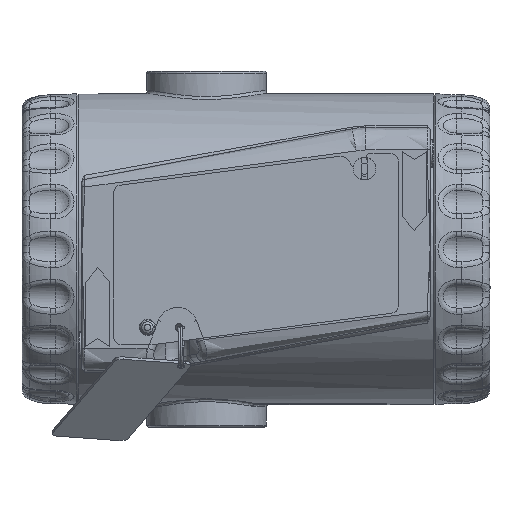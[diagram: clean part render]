
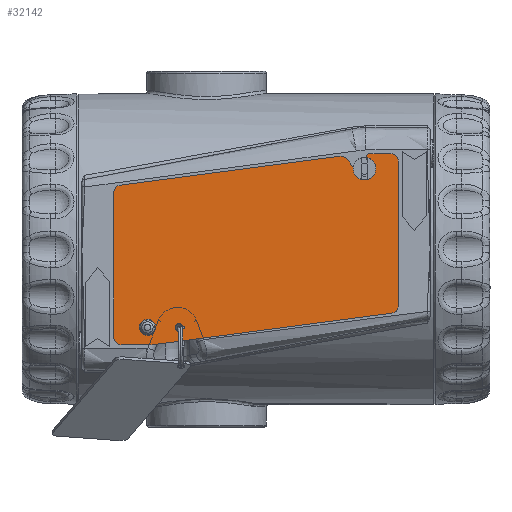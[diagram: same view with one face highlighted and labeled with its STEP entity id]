
A CAD part, left-side view. The second image highlights one B-rep face of the part: STEP entity #32142.
In plain terms, the highlighted planar face has unit normal (-1, 0, 0) as drawn and (0, 0, 1) by its records, which use the part's own axes.
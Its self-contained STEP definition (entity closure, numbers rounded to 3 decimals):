
#2493=FACE_BOUND('',#10486,.T.);
#2494=FACE_BOUND('',#10487,.T.);
#3020=PLANE('',#36271);
#4504=LINE('',#74977,#6029);
#4508=LINE('',#74989,#6033);
#4512=LINE('',#75001,#6037);
#4516=LINE('',#75013,#6041);
#4520=LINE('',#75025,#6045);
#4523=LINE('',#75031,#6048);
#4527=LINE('',#75043,#6052);
#4531=LINE('',#75054,#6056);
#6029=VECTOR('',#44955,10.);
#6033=VECTOR('',#44967,10.);
#6037=VECTOR('',#44979,10.);
#6041=VECTOR('',#44991,10.);
#6045=VECTOR('',#45003,10.);
#6048=VECTOR('',#45008,10.);
#6052=VECTOR('',#45020,10.);
#6056=VECTOR('',#45032,10.);
#8439=FACE_OUTER_BOUND('',#10485,.T.);
#10485=EDGE_LOOP('',(#29763,#29764,#29765,#29766,#29767,#29768,#29769,#29770,
#29771,#29772,#29773,#29774,#29775,#29776,#29777));
#10486=EDGE_LOOP('',(#29778));
#10487=EDGE_LOOP('',(#29779));
#12564=CIRCLE('',#36237,1.35);
#12566=CIRCLE('',#36240,1.);
#12567=CIRCLE('',#36242,2.);
#12569=CIRCLE('',#36246,2.);
#12571=CIRCLE('',#36250,1.);
#12573=CIRCLE('',#36254,2.);
#12575=CIRCLE('',#36258,2.);
#12577=CIRCLE('',#36263,2.);
#12579=CIRCLE('',#36267,2.);
#15491=VERTEX_POINT('',#74957);
#15493=VERTEX_POINT('',#74963);
#15494=VERTEX_POINT('',#74967);
#15495=VERTEX_POINT('',#74968);
#15498=VERTEX_POINT('',#74976);
#15500=VERTEX_POINT('',#74982);
#15502=VERTEX_POINT('',#74988);
#15504=VERTEX_POINT('',#74994);
#15506=VERTEX_POINT('',#75000);
#15508=VERTEX_POINT('',#75006);
#15510=VERTEX_POINT('',#75012);
#15512=VERTEX_POINT('',#75018);
#15514=VERTEX_POINT('',#75024);
#15516=VERTEX_POINT('',#75030);
#15518=VERTEX_POINT('',#75036);
#15520=VERTEX_POINT('',#75042);
#15522=VERTEX_POINT('',#75048);
#20239=EDGE_CURVE('',#15491,#15491,#12564,.T.);
#20242=EDGE_CURVE('',#15493,#15493,#12566,.T.);
#20243=EDGE_CURVE('',#15494,#15495,#12567,.T.);
#20247=EDGE_CURVE('',#15495,#15498,#4504,.T.);
#20250=EDGE_CURVE('',#15498,#15500,#12569,.T.);
#20253=EDGE_CURVE('',#15500,#15502,#4508,.T.);
#20256=EDGE_CURVE('',#15502,#15504,#12571,.T.);
#20259=EDGE_CURVE('',#15504,#15506,#4512,.T.);
#20262=EDGE_CURVE('',#15506,#15508,#12573,.T.);
#20265=EDGE_CURVE('',#15508,#15510,#4516,.T.);
#20268=EDGE_CURVE('',#15510,#15512,#12575,.T.);
#20271=EDGE_CURVE('',#15512,#15514,#4520,.T.);
#20274=EDGE_CURVE('',#15514,#15516,#4523,.T.);
#20277=EDGE_CURVE('',#15516,#15518,#12577,.T.);
#20280=EDGE_CURVE('',#15518,#15520,#4527,.T.);
#20283=EDGE_CURVE('',#15520,#15522,#12579,.T.);
#20286=EDGE_CURVE('',#15522,#15494,#4531,.T.);
#29763=ORIENTED_EDGE('',*,*,#20243,.F.);
#29764=ORIENTED_EDGE('',*,*,#20286,.F.);
#29765=ORIENTED_EDGE('',*,*,#20283,.F.);
#29766=ORIENTED_EDGE('',*,*,#20280,.F.);
#29767=ORIENTED_EDGE('',*,*,#20277,.F.);
#29768=ORIENTED_EDGE('',*,*,#20274,.F.);
#29769=ORIENTED_EDGE('',*,*,#20271,.F.);
#29770=ORIENTED_EDGE('',*,*,#20268,.F.);
#29771=ORIENTED_EDGE('',*,*,#20265,.F.);
#29772=ORIENTED_EDGE('',*,*,#20262,.F.);
#29773=ORIENTED_EDGE('',*,*,#20259,.F.);
#29774=ORIENTED_EDGE('',*,*,#20256,.F.);
#29775=ORIENTED_EDGE('',*,*,#20253,.F.);
#29776=ORIENTED_EDGE('',*,*,#20250,.F.);
#29777=ORIENTED_EDGE('',*,*,#20247,.F.);
#29778=ORIENTED_EDGE('',*,*,#20239,.T.);
#29779=ORIENTED_EDGE('',*,*,#20242,.T.);
#32142=ADVANCED_FACE('',(#8439,#2493,#2494),#3020,.T.);
#36237=AXIS2_PLACEMENT_3D('',#74959,#44936,#44937);
#36240=AXIS2_PLACEMENT_3D('',#74965,#44943,#44944);
#36242=AXIS2_PLACEMENT_3D('',#74969,#44947,#44948);
#36246=AXIS2_PLACEMENT_3D('',#74983,#44960,#44961);
#36250=AXIS2_PLACEMENT_3D('',#74995,#44972,#44973);
#36254=AXIS2_PLACEMENT_3D('',#75007,#44984,#44985);
#36258=AXIS2_PLACEMENT_3D('',#75019,#44996,#44997);
#36263=AXIS2_PLACEMENT_3D('',#75037,#45013,#45014);
#36267=AXIS2_PLACEMENT_3D('',#75049,#45025,#45026);
#36271=AXIS2_PLACEMENT_3D('',#75057,#45036,#45037);
#44936=DIRECTION('center_axis',(0.,0.,-1.));
#44937=DIRECTION('ref_axis',(-1.,0.,0.));
#44943=DIRECTION('center_axis',(0.,0.,-1.));
#44944=DIRECTION('ref_axis',(-1.,0.,0.));
#44947=DIRECTION('center_axis',(0.,0.,-1.));
#44948=DIRECTION('ref_axis',(0.766,0.643,0.));
#44955=DIRECTION('',(0.643,-0.766,0.));
#44960=DIRECTION('center_axis',(0.,0.,1.));
#44961=DIRECTION('ref_axis',(0.766,0.643,0.));
#44967=DIRECTION('',(-0.643,0.766,0.));
#44972=DIRECTION('center_axis',(0.,0.,-1.));
#44973=DIRECTION('ref_axis',(0.,1.,0.));
#44979=DIRECTION('',(1.,0.,0.));
#44984=DIRECTION('center_axis',(0.,0.,-1.));
#44985=DIRECTION('ref_axis',(1.,0.,0.));
#44991=DIRECTION('',(0.,-1.,0.));
#44996=DIRECTION('center_axis',(0.,0.,-1.));
#44997=DIRECTION('ref_axis',(0.131,-0.991,0.));
#45003=DIRECTION('',(-0.991,-0.131,0.));
#45008=DIRECTION('',(-1.,0.,0.));
#45013=DIRECTION('center_axis',(0.,0.,-1.));
#45014=DIRECTION('ref_axis',(-1.,0.,0.));
#45020=DIRECTION('',(0.,1.,0.));
#45025=DIRECTION('center_axis',(0.,0.,-1.));
#45026=DIRECTION('ref_axis',(-0.131,0.991,0.));
#45032=DIRECTION('',(0.991,0.131,0.));
#45036=DIRECTION('center_axis',(0.,0.,1.));
#45037=DIRECTION('ref_axis',(1.,0.,0.));
#74957=CARTESIAN_POINT('',(10.35,4.599,0.7));
#74959=CARTESIAN_POINT('Origin',(9.,4.599,0.7));
#74963=CARTESIAN_POINT('',(18.4,4.599,0.7));
#74965=CARTESIAN_POINT('Origin',(17.4,4.599,0.7));
#74967=CARTESIAN_POINT('',(60.389,50.327,0.7));
#74968=CARTESIAN_POINT('',(62.182,49.63,0.7));
#74969=CARTESIAN_POINT('Origin',(60.65,48.344,0.7));
#74976=CARTESIAN_POINT('',(65.468,45.714,0.7));
#74977=CARTESIAN_POINT('',(65.468,45.714,0.7));
#74982=CARTESIAN_POINT('',(68.532,48.286,0.7));
#74983=CARTESIAN_POINT('Origin',(67.,47.,0.7));
#74988=CARTESIAN_POINT('',(67.633,49.357,0.7));
#74989=CARTESIAN_POINT('',(67.633,49.357,0.7));
#74994=CARTESIAN_POINT('',(68.399,51.,0.7));
#74995=CARTESIAN_POINT('Origin',(68.399,50.,0.7));
#75000=CARTESIAN_POINT('',(74.,51.,0.7));
#75001=CARTESIAN_POINT('',(74.,51.,0.7));
#75006=CARTESIAN_POINT('',(76.,49.,0.7));
#75007=CARTESIAN_POINT('Origin',(74.,49.,0.7));
#75012=CARTESIAN_POINT('',(76.,10.377,0.7));
#75013=CARTESIAN_POINT('',(76.,10.377,0.7));
#75018=CARTESIAN_POINT('',(74.261,8.394,0.7));
#75019=CARTESIAN_POINT('Origin',(74.,10.377,0.7));
#75024=CARTESIAN_POINT('',(10.5,0.,0.7));
#75025=CARTESIAN_POINT('',(10.5,0.,0.7));
#75030=CARTESIAN_POINT('',(2.,0.,0.7));
#75031=CARTESIAN_POINT('',(2.,0.,0.7));
#75036=CARTESIAN_POINT('',(0.,2.,0.7));
#75037=CARTESIAN_POINT('Origin',(2.,2.,0.7));
#75042=CARTESIAN_POINT('',(0.,40.623,0.7));
#75043=CARTESIAN_POINT('',(0.,40.623,0.7));
#75048=CARTESIAN_POINT('',(1.739,42.606,0.7));
#75049=CARTESIAN_POINT('Origin',(2.,40.623,0.7));
#75054=CARTESIAN_POINT('',(60.389,50.327,0.7));
#75057=CARTESIAN_POINT('Origin',(39.077,26.228,0.7));
